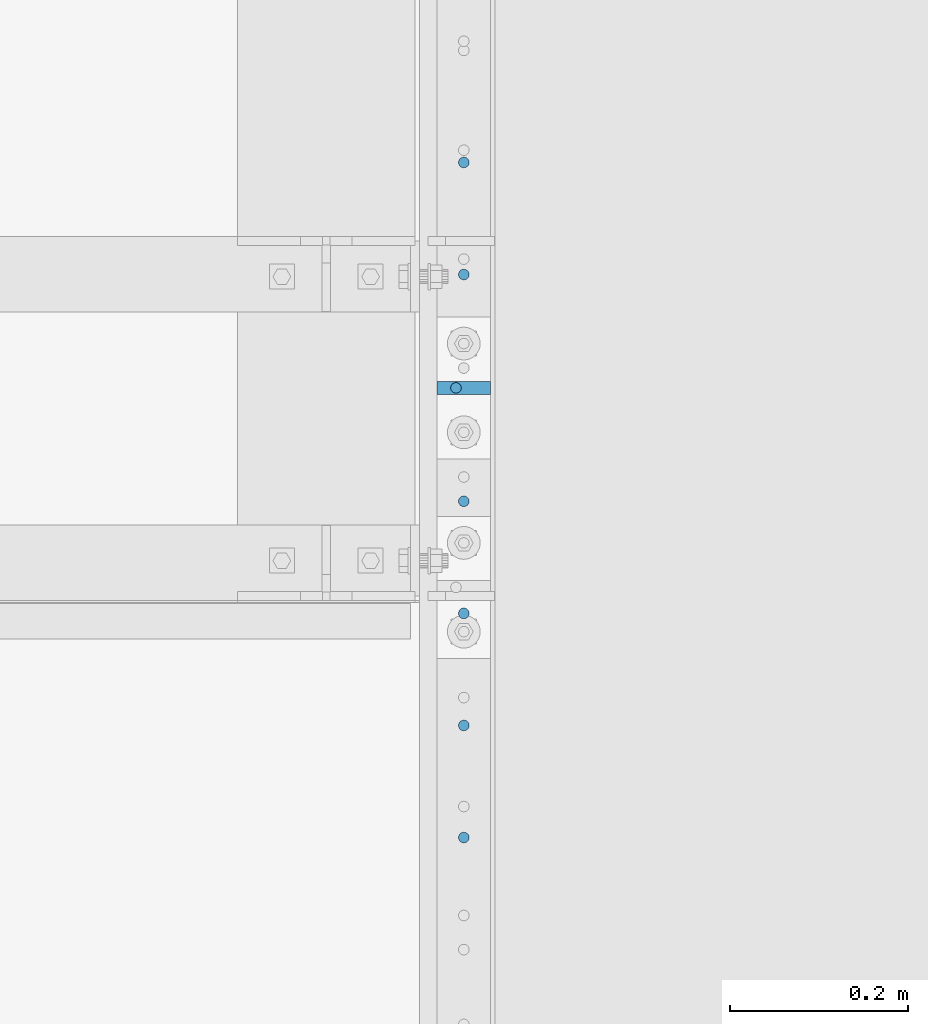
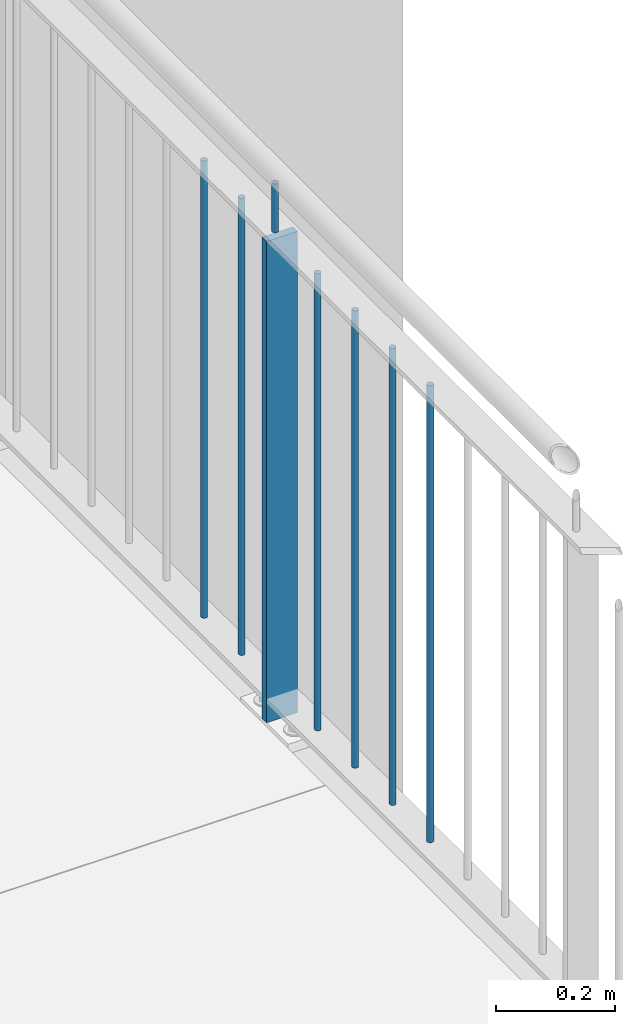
# One storey, part 96 of 825: 8 columns.
"""IFC2X3 building model written with IfcOpenShell, lengths in millimetres."""

from ifc_helpers import new_model, entity, si_unit, converted_unit, frame, origin, origin_with_axes, origin_2d, place, context, project, spatial, rectangle, circle, extrude, clip, halfspace, material, element, save


model = new_model("IFC2X3")

# Units and contexts
model_context = context("Model", 3, precision=1e-09, world=origin_with_axes())
ifc_project = project(units=[si_unit("LENGTHUNIT", "METRE", prefix="MILLI"), si_unit("AREAUNIT", "SQUARE_METRE"), si_unit("VOLUMEUNIT", "CUBIC_METRE"), converted_unit("PLANEANGLEUNIT", "DEGREE", entity("IfcPlaneAngleMeasure", 0.01745329), si_unit("PLANEANGLEUNIT", "RADIAN"), dimensions=[0, 0, 0, 0, 0, 0, 0])], contexts=[model_context])

# Site, building, storey
site_placement = place(None, origin_with_axes())
site = spatial("IfcSite", under=ifc_project, at=site_placement, Name="Cnopf'sche Kinderklinik", CompositionType="ELEMENT")
building_placement = place(site_placement, origin_with_axes())
building = spatial("IfcBuilding", under=site, at=building_placement, Name="Struktur 1", CompositionType="ELEMENT")
storey_placement = place(building_placement, origin_with_axes())
storey = spatial("IfcBuildingStorey", under=building, at=storey_placement, Name="Default Storey", CompositionType="ELEMENT", Elevation=0.0)

# Columns
ifc_material = material(Name="S235JR")
column_1_placement = place(None, frame((9021.713402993, 5976.351913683, 3220.775923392), z_axis=(0.0, 0.0, 1.0), x_axis=(0.0, -1.0, 0.0)))
element("IfcColumn", 1, at=column_1_placement, inside=storey, material=ifc_material, Name="Railing_Post_Landing#5", ObjectType="Railing_Post_Landing#5", context=model_context, shape_type="Clipping", body=[
    clip(clip(extrude(rectangle(XDim=15.0, YDim=60.0, at=origin_2d()), origin(), (0.0, 0.0, -1.0), 1070.646584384), halfspace(frame((5976.351913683, -9021.713402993, -1019.722292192), z_axis=(0.0, 0.0, 1.0), x_axis=(0.0, 1.0, 0.0)), True)), halfspace(frame((5976.351913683, -9021.713402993, -30.924292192), z_axis=(0.0, 0.0, -1.0), x_axis=(0.0, -1.0, 0.0)), True)),
])
column_2_placement = place(None, frame((9021.713402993, 6230.371433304, 3203.337912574), z_axis=(0.0, 0.0, 1.0), x_axis=(0.0, -1.0, 0.0)))
element("IfcColumn", 2, at=column_2_placement, inside=storey, material=ifc_material, Name="Railing_Picket_Landing#33", ObjectType="Railing_Picket_Landing#33", context=model_context, shape_type="Clipping", body=[
    clip(clip(extrude(circle(Radius=6.0, at=origin_2d()), origin(), (0.0, 0.0, -1.0), 965.770562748), halfspace(frame((6230.371433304, -9021.713402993, -13.486281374), z_axis=(0.0, 0.0, -1.0), x_axis=(0.0, -1.0, 0.0)), True)), halfspace(frame((6230.371433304, -9021.713402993, -952.284281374), z_axis=(0.0, 0.0, 1.0), x_axis=(0.0, 1.0, 0.0)), True)),
])
column_3_placement = place(None, frame((9021.713402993, 6104.111913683, 3203.337912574), z_axis=(0.0, 0.0, 1.0), x_axis=(0.0, -1.0, 0.0)))
element("IfcColumn", 3, at=column_3_placement, inside=storey, material=ifc_material, Name="Railing_Picket_Landing#34", ObjectType="Railing_Picket_Landing#34", context=model_context, shape_type="Clipping", body=[
    clip(clip(extrude(circle(Radius=6.0, at=origin_2d()), origin(), (0.0, 0.0, -1.0), 965.770562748), halfspace(frame((6104.111913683, -9021.713402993, -13.486281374), z_axis=(0.0, 0.0, -1.0), x_axis=(0.0, -1.0, 0.0)), True)), halfspace(frame((6104.111913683, -9021.713402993, -952.284281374), z_axis=(0.0, 0.0, 1.0), x_axis=(0.0, 1.0, 0.0)), True)),
])
column_4_placement = place(None, frame((9021.713402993, 5848.591913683, 3203.337912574), z_axis=(0.0, 0.0, 1.0), x_axis=(0.0, -1.0, 0.0)))
element("IfcColumn", 4, at=column_4_placement, inside=storey, material=ifc_material, Name="Railing_Picket_Landing#35", ObjectType="Railing_Picket_Landing#35", context=model_context, shape_type="Clipping", body=[
    clip(clip(extrude(circle(Radius=6.0, at=origin_2d()), origin(), (0.0, 0.0, -1.0), 965.770562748), halfspace(frame((5848.591913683, -9021.713402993, -13.486281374), z_axis=(0.0, 0.0, -1.0), x_axis=(0.0, -1.0, 0.0)), True)), halfspace(frame((5848.591913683, -9021.713402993, -952.284281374), z_axis=(0.0, 0.0, 1.0), x_axis=(0.0, 1.0, 0.0)), True)),
])
column_5_placement = place(None, frame((9021.713402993, 5722.332394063, 3203.337912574), z_axis=(0.0, 0.0, 1.0), x_axis=(0.0, -1.0, 0.0)))
element("IfcColumn", 5, at=column_5_placement, inside=storey, material=ifc_material, Name="Railing_Picket_Landing#36", ObjectType="Railing_Picket_Landing#36", context=model_context, shape_type="Clipping", body=[
    clip(clip(extrude(circle(Radius=6.0, at=origin_2d()), origin(), (0.0, 0.0, -1.0), 965.770562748), halfspace(frame((5722.332394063, -9021.713402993, -13.486281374), z_axis=(0.0, 0.0, -1.0), x_axis=(0.0, -1.0, 0.0)), True)), halfspace(frame((5722.332394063, -9021.713402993, -952.284281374), z_axis=(0.0, 0.0, 1.0), x_axis=(0.0, 1.0, 0.0)), True)),
])
column_6_placement = place(None, frame((9021.713402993, 5596.072874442, 3203.337912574), z_axis=(0.0, 0.0, 1.0), x_axis=(0.0, -1.0, 0.0)))
element("IfcColumn", 6, at=column_6_placement, inside=storey, material=ifc_material, Name="Railing_Picket_Landing#37", ObjectType="Railing_Picket_Landing#37", context=model_context, shape_type="Clipping", body=[
    clip(clip(extrude(circle(Radius=6.0, at=origin_2d()), origin(), (0.0, 0.0, -1.0), 965.770562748), halfspace(frame((5596.072874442, -9021.713402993, -13.486281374), z_axis=(0.0, 0.0, -1.0), x_axis=(0.0, -1.0, 0.0)), True)), halfspace(frame((5596.072874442, -9021.713402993, -952.284281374), z_axis=(0.0, 0.0, 1.0), x_axis=(0.0, 1.0, 0.0)), True)),
])
column_7_placement = place(None, frame((9021.713402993, 5469.813354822, 3203.337912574), z_axis=(0.0, 0.0, 1.0), x_axis=(0.0, -1.0, 0.0)))
element("IfcColumn", 7, at=column_7_placement, inside=storey, material=ifc_material, Name="Railing_Picket_Landing#38", ObjectType="Railing_Picket_Landing#38", context=model_context, shape_type="Clipping", body=[
    clip(clip(extrude(circle(Radius=6.0, at=origin_2d()), origin(), (0.0, 0.0, -1.0), 965.770562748), halfspace(frame((5469.813354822, -9021.713402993, -13.486281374), z_axis=(0.0, 0.0, -1.0), x_axis=(0.0, -1.0, 0.0)), True)), halfspace(frame((5469.813354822, -9021.713402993, -952.284281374), z_axis=(0.0, 0.0, 1.0), x_axis=(0.0, 1.0, 0.0)), True)),
])
column_8_placement = place(None, frame((9012.913402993, 5976.351913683, 3308.337912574), z_axis=(0.0, 0.0, 1.0), x_axis=(-1.0, 0.0, 0.0)))
element("IfcColumn", 8, at=column_8_placement, inside=storey, material=ifc_material, Name="Bar#5", ObjectType="Bar#5", context=model_context, shape_type="Clipping", body=[
    clip(clip(extrude(circle(Radius=6.0, at=origin_2d()), origin(), (0.0, 0.0, -1.0), 116.970562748), halfspace(frame((9012.913402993, 5976.351913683, -8.486281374), z_axis=(0.0, 0.0, -1.0), x_axis=(1.0, 0.0, 0.0)), True)), halfspace(frame((9012.913402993, 5976.351913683, -108.484281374), z_axis=(0.0, 0.0, 1.0), x_axis=(-1.0, 0.0, 0.0)), True)),
])

save(model, "model.ifc")
